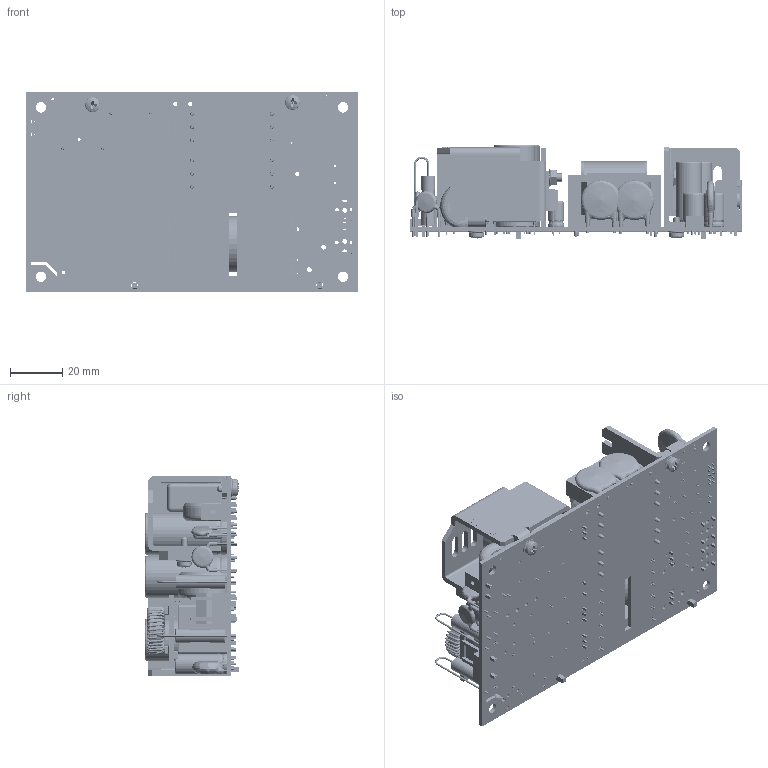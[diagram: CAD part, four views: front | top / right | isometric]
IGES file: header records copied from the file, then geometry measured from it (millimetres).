
Start section: SolidWorks IGES file using analytic representation for surfaces
Global section: file name: C:\odfb\OneDrive - XP Power\Proj 2018\GCS350 Series Step Files\Open Frame\GCS350PS12-15 STD (Screw Term).IGS; native system: SolidWorks 2018; preprocessor: SolidWorks 2018; author: jpatel; date: 181112.103501; units: inch
Bounding box: 127 x 35.95 x 76.21 mm (x, y, z)
Surface area: 89647.5 mm2 (no closed solid volume)
Topology: 0 solids, 0 shells, 4591 faces, 42714 edges, 42632 vertices
Faces by surface type: bspline 3079, revolution 1512
